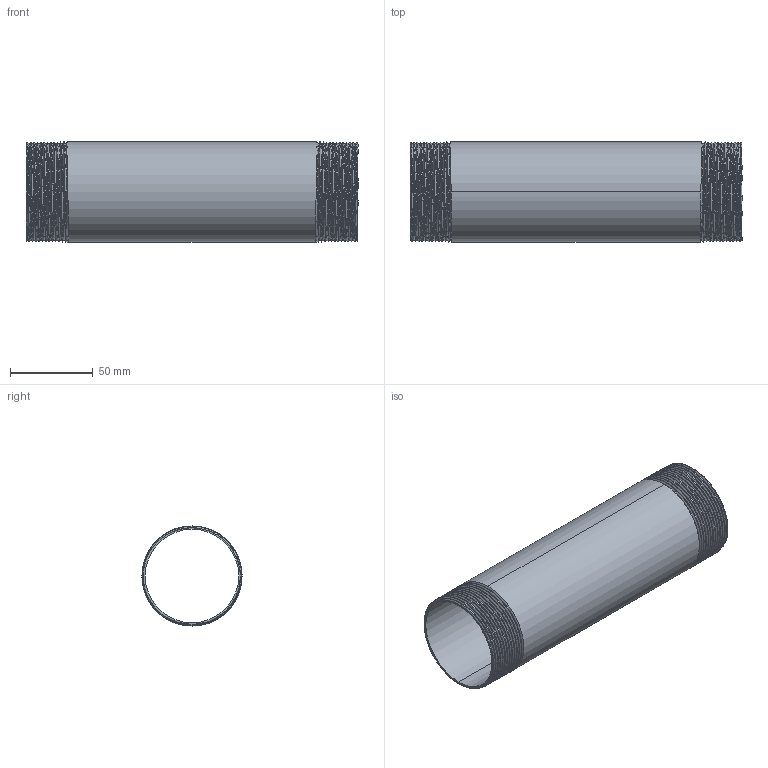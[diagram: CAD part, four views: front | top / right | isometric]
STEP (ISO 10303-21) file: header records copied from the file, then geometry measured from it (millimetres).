
FILE_DESCRIPTION (( 'STEP AP203' ), '1' );
FILE_NAME ('3D_R210_2x200_17185909.STEP', '2024-08-16T13:58:57', ( '' ), ( '' ), 'SwSTEP 2.0', 'SolidWorks 2024', '' );
FILE_SCHEMA (( 'CONFIG_CONTROL_DESIGN' ));
Length unit declared in the file: millimetre
Products named in the file (1): 3D_R210_2x200_17185909
Bounding box: 200 x 60.3 x 60.3 mm (x, y, z)
Volume: 67312.6 mm3; surface area: 78809.4 mm2
Topology: 1 solids, 1 shells, 68 faces, 192 edges, 126 vertices
Faces by surface type: cone 54, bspline 6, cylinder 4, plane 4
Entity records: 12689 total; most frequent: CARTESIAN_POINT 11103, ORIENTED_EDGE 384, DIRECTION 212, EDGE_CURVE 192, VERTEX_POINT 126, B_SPLINE_CURVE_WITH_KNOTS 110, AXIS2_PLACEMENT_3D 75, EDGE_LOOP 70
